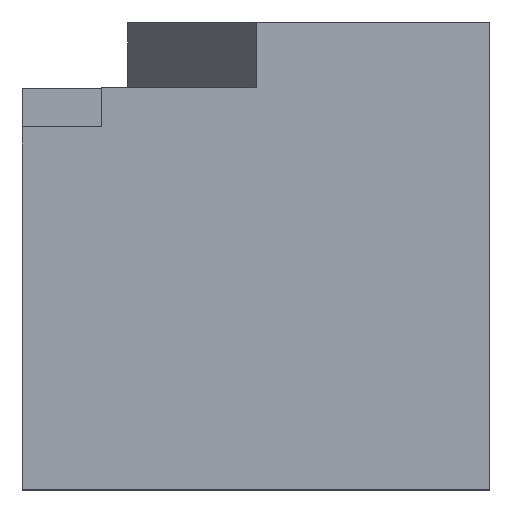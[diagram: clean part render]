
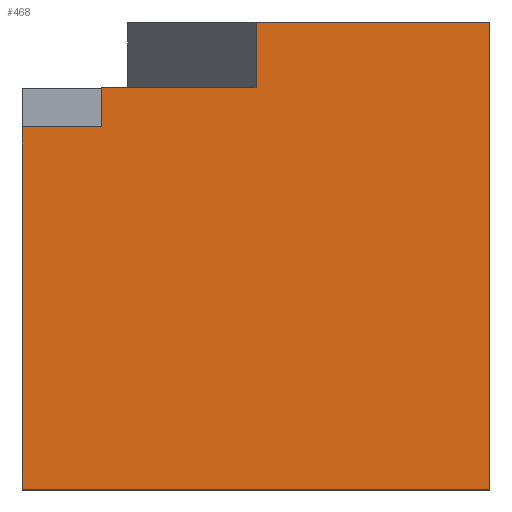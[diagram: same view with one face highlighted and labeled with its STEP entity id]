
A CAD part, top view. The second image highlights one B-rep face of the part: STEP entity #468.
In plain terms, the highlighted planar face has unit normal (0, 0, 1).
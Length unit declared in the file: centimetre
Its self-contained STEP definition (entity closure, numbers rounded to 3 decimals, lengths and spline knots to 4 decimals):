
#1 = CARTESIAN_POINT ( 'NONE',  ( 500., 859.5552, 1000. ) ) ;
#2 = DIRECTION ( 'NONE',  ( 0., -1., 0. ) ) ;
#22 = CARTESIAN_POINT ( 'NONE',  ( 500., 859.5552, 1000. ) ) ;
#29 = CARTESIAN_POINT ( 'NONE',  ( 170.2379, 775.2681, 1000. ) ) ;
#34 = EDGE_CURVE ( 'NONE', #249, #613, #102, .T. ) ;
#49 = EDGE_CURVE ( 'NONE', #691, #569, #425, .T. ) ;
#54 = DIRECTION ( 'NONE',  ( 1., 0., 0. ) ) ;
#60 = CARTESIAN_POINT ( 'NONE',  ( 1000., 1000., 1000. ) ) ;
#76 = LINE ( 'NONE', #492, #545 ) ;
#81 = EDGE_CURVE ( 'NONE', #569, #141, #482, .T. ) ;
#102 = LINE ( 'NONE', #531, #411 ) ;
#103 = EDGE_CURVE ( 'NONE', #613, #691, #156, .T. ) ;
#124 = ORIENTED_EDGE ( 'NONE', *, *, #103, .F. ) ;
#141 = VERTEX_POINT ( 'NONE', #382 ) ;
#156 = LINE ( 'NONE', #426, #602 ) ;
#170 = CARTESIAN_POINT ( 'NONE',  ( 1000., 1000., 1000. ) ) ;
#174 = CARTESIAN_POINT ( 'NONE',  ( 1000., 0., 1000. ) ) ;
#178 = CARTESIAN_POINT ( 'NONE',  ( 0., 0., 1000. ) ) ;
#195 = ORIENTED_EDGE ( 'NONE', *, *, #394, .T. ) ;
#201 = VECTOR ( 'NONE', #432, 100. ) ;
#202 = EDGE_CURVE ( 'NONE', #631, #275, #76, .T. ) ;
#213 = DIRECTION ( 'NONE',  ( 0., 1., 0. ) ) ;
#215 = CARTESIAN_POINT ( 'NONE',  ( 0., 775.2681, 1000. ) ) ;
#229 = VERTEX_POINT ( 'NONE', #60 ) ;
#235 = DIRECTION ( 'NONE',  ( -1., 0., 0. ) ) ;
#237 = ORIENTED_EDGE ( 'NONE', *, *, #34, .F. ) ;
#249 = VERTEX_POINT ( 'NONE', #215 ) ;
#257 = DIRECTION ( 'NONE',  ( 0., 1., 0. ) ) ;
#275 = VERTEX_POINT ( 'NONE', #174 ) ;
#282 = DIRECTION ( 'NONE',  ( 1., 0., 0. ) ) ;
#283 = VECTOR ( 'NONE', #338, 100. ) ;
#303 = CARTESIAN_POINT ( 'NONE',  ( 0., 1000., 1000. ) ) ;
#306 = EDGE_CURVE ( 'NONE', #275, #229, #660, .T. ) ;
#317 = CARTESIAN_POINT ( 'NONE',  ( 0., 859.5552, 1000. ) ) ;
#332 = CARTESIAN_POINT ( 'NONE',  ( 0., 0., 1000. ) ) ;
#337 = DIRECTION ( 'NONE',  ( 0., 0., 1. ) ) ;
#338 = DIRECTION ( 'NONE',  ( 0., 1., 0. ) ) ;
#339 = CARTESIAN_POINT ( 'NONE',  ( 170.2379, 859.5552, 1000. ) ) ;
#354 = LINE ( 'NONE', #303, #439 ) ;
#381 = LINE ( 'NONE', #598, #407 ) ;
#382 = CARTESIAN_POINT ( 'NONE',  ( 500., 1000., 1000. ) ) ;
#389 = ORIENTED_EDGE ( 'NONE', *, *, #202, .T. ) ;
#394 = EDGE_CURVE ( 'NONE', #229, #141, #354, .T. ) ;
#405 = ORIENTED_EDGE ( 'NONE', *, *, #306, .T. ) ;
#407 = VECTOR ( 'NONE', #2, 100. ) ;
#411 = VECTOR ( 'NONE', #54, 100. ) ;
#419 = EDGE_CURVE ( 'NONE', #249, #631, #381, .T. ) ;
#423 = ORIENTED_EDGE ( 'NONE', *, *, #49, .F. ) ;
#425 = LINE ( 'NONE', #317, #201 ) ;
#426 = CARTESIAN_POINT ( 'NONE',  ( 170.2379, 775.2681, 1000. ) ) ;
#432 = DIRECTION ( 'NONE',  ( 1., 0., 0. ) ) ;
#439 = VECTOR ( 'NONE', #235, 100. ) ;
#468 = ADVANCED_FACE ( 'NONE', ( #647 ), #534, .T. ) ;
#475 = EDGE_LOOP ( 'NONE', ( #638, #423, #124, #237, #636, #389, #405, #195 ) ) ;
#482 = LINE ( 'NONE', #1, #576 ) ;
#492 = CARTESIAN_POINT ( 'NONE',  ( 0., 0., 1000. ) ) ;
#531 = CARTESIAN_POINT ( 'NONE',  ( 0., 775.2681, 1000. ) ) ;
#534 = PLANE ( 'NONE',  #684 ) ;
#541 = DIRECTION ( 'NONE',  ( 1., 0., 0. ) ) ;
#545 = VECTOR ( 'NONE', #282, 100. ) ;
#569 = VERTEX_POINT ( 'NONE', #22 ) ;
#576 = VECTOR ( 'NONE', #257, 100. ) ;
#598 = CARTESIAN_POINT ( 'NONE',  ( 0., 1000., 1000. ) ) ;
#602 = VECTOR ( 'NONE', #213, 100. ) ;
#613 = VERTEX_POINT ( 'NONE', #29 ) ;
#631 = VERTEX_POINT ( 'NONE', #178 ) ;
#636 = ORIENTED_EDGE ( 'NONE', *, *, #419, .T. ) ;
#638 = ORIENTED_EDGE ( 'NONE', *, *, #81, .F. ) ;
#647 = FACE_OUTER_BOUND ( 'NONE', #475, .T. ) ;
#660 = LINE ( 'NONE', #170, #283 ) ;
#684 = AXIS2_PLACEMENT_3D ( 'NONE', #332, #337, #541 ) ;
#691 = VERTEX_POINT ( 'NONE', #339 ) ;
